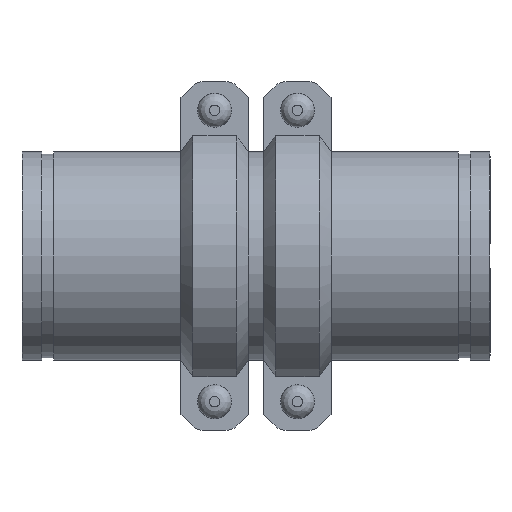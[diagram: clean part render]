
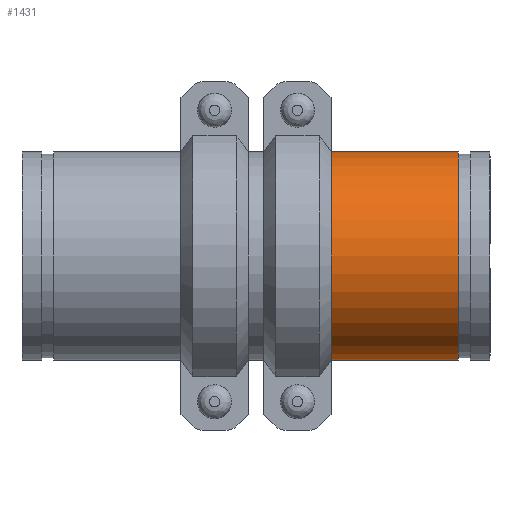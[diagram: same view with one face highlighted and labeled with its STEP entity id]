
A CAD part, front view. The second image highlights one B-rep face of the part: STEP entity #1431.
In plain terms, the highlighted cylindrical face has radius 84.138 mm (diameter 168.275 mm), a full revolution.
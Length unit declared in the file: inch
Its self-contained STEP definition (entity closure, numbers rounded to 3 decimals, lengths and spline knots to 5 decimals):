
#59=LINE('',#2286,#152);
#152=VECTOR('',#1843,3.3125);
#245=CYLINDRICAL_SURFACE('',#1629,3.3125);
#302=FACE_OUTER_BOUND('',#387,.T.);
#387=EDGE_LOOP('',(#940,#941,#942,#943,#944,#945));
#497=CIRCLE('',#1627,3.3125);
#498=CIRCLE('',#1628,3.3125);
#499=CIRCLE('',#1630,3.3125);
#500=CIRCLE('',#1631,3.3125);
#589=VERTEX_POINT('',#2277);
#590=VERTEX_POINT('',#2278);
#591=VERTEX_POINT('',#2282);
#592=VERTEX_POINT('',#2283);
#730=EDGE_CURVE('',#589,#590,#497,.T.);
#731=EDGE_CURVE('',#590,#589,#498,.T.);
#732=EDGE_CURVE('',#591,#592,#499,.T.);
#733=EDGE_CURVE('',#592,#591,#500,.T.);
#734=EDGE_CURVE('',#592,#590,#59,.T.);
#940=ORIENTED_EDGE('',*,*,#732,.F.);
#941=ORIENTED_EDGE('',*,*,#733,.F.);
#942=ORIENTED_EDGE('',*,*,#734,.T.);
#943=ORIENTED_EDGE('',*,*,#731,.T.);
#944=ORIENTED_EDGE('',*,*,#730,.T.);
#945=ORIENTED_EDGE('',*,*,#734,.F.);
#1431=ADVANCED_FACE('',(#302),#245,.T.);
#1627=AXIS2_PLACEMENT_3D('',#2279,#1833,#1834);
#1628=AXIS2_PLACEMENT_3D('',#2280,#1835,#1836);
#1629=AXIS2_PLACEMENT_3D('',#2281,#1837,#1838);
#1630=AXIS2_PLACEMENT_3D('',#2284,#1839,#1840);
#1631=AXIS2_PLACEMENT_3D('',#2285,#1841,#1842);
#1833=DIRECTION('center_axis',(-1.,0.,0.));
#1834=DIRECTION('ref_axis',(0.,0.,1.));
#1835=DIRECTION('center_axis',(-1.,0.,0.));
#1836=DIRECTION('ref_axis',(0.,0.,1.));
#1837=DIRECTION('center_axis',(-1.,0.,0.));
#1838=DIRECTION('ref_axis',(0.,1.,0.));
#1839=DIRECTION('center_axis',(-1.,0.,0.));
#1840=DIRECTION('ref_axis',(0.,0.,1.));
#1841=DIRECTION('center_axis',(-1.,0.,0.));
#1842=DIRECTION('ref_axis',(0.,0.,1.));
#1843=DIRECTION('',(1.,0.,0.));
#2277=CARTESIAN_POINT('',(2.0225,3.3125,0.));
#2278=CARTESIAN_POINT('',(2.0225,-3.3125,0.));
#2279=CARTESIAN_POINT('Origin',(2.0225,0.,0.));
#2280=CARTESIAN_POINT('Origin',(2.0225,0.,0.));
#2281=CARTESIAN_POINT('Origin',(0.,0.,
0.));
#2282=CARTESIAN_POINT('',(-2.0225,3.3125,0.));
#2283=CARTESIAN_POINT('',(-2.0225,-3.3125,0.));
#2284=CARTESIAN_POINT('Origin',(-2.0225,0.,0.));
#2285=CARTESIAN_POINT('Origin',(-2.0225,0.,0.));
#2286=CARTESIAN_POINT('',(0.,-3.3125,0.));
